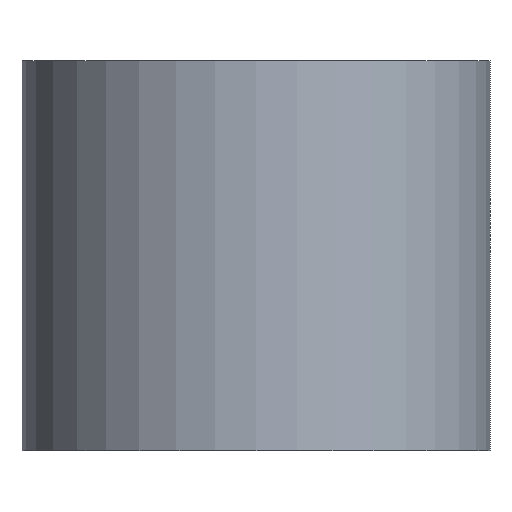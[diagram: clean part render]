
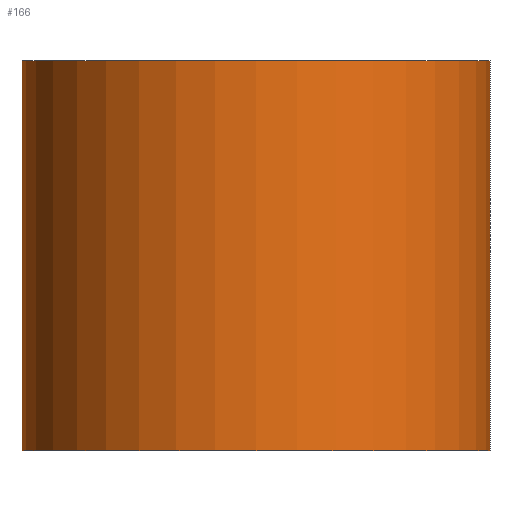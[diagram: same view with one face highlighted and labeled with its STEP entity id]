
A CAD part, front view. The second image highlights one B-rep face of the part: STEP entity #166.
In plain terms, the highlighted cylindrical face has radius 3 mm (diameter 6 mm), a partial arc.
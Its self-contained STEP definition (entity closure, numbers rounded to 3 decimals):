
#2 = DIRECTION ( 'NONE',  ( 0., 0., -1. ) ) ;
#5 = ORIENTED_EDGE ( 'NONE', *, *, #206, .T. ) ;
#13 = VERTEX_POINT ( 'NONE', #29 ) ;
#19 = LINE ( 'NONE', #67, #135 ) ;
#25 = VERTEX_POINT ( 'NONE', #240 ) ;
#29 = CARTESIAN_POINT ( 'NONE',  ( 3., 0., 0. ) ) ;
#30 = CARTESIAN_POINT ( 'NONE',  ( 3., 0., 5. ) ) ;
#47 = VERTEX_POINT ( 'NONE', #241 ) ;
#49 = EDGE_LOOP ( 'NONE', ( #113, #88, #69, #5 ) ) ;
#55 = EDGE_CURVE ( 'NONE', #25, #13, #131, .T. ) ;
#60 = EDGE_CURVE ( 'NONE', #236, #25, #230, .T. ) ;
#63 = AXIS2_PLACEMENT_3D ( 'NONE', #97, #174, #243 ) ;
#67 = CARTESIAN_POINT ( 'NONE',  ( -3., 0., 5. ) ) ;
#69 = ORIENTED_EDGE ( 'NONE', *, *, #221, .T. ) ;
#70 = AXIS2_PLACEMENT_3D ( 'NONE', #116, #239, #117 ) ;
#88 = ORIENTED_EDGE ( 'NONE', *, *, #60, .F. ) ;
#96 = FACE_OUTER_BOUND ( 'NONE', #49, .T. ) ;
#97 = CARTESIAN_POINT ( 'NONE',  ( 0., 0., 5. ) ) ;
#113 = ORIENTED_EDGE ( 'NONE', *, *, #55, .F. ) ;
#116 = CARTESIAN_POINT ( 'NONE',  ( 0., 0., 5. ) ) ;
#117 = DIRECTION ( 'NONE',  ( 1., 0., 0. ) ) ;
#118 = CARTESIAN_POINT ( 'NONE',  ( 0., 0., 0. ) ) ;
#131 = LINE ( 'NONE', #30, #179 ) ;
#135 = VECTOR ( 'NONE', #2, 1000. ) ;
#166 = ADVANCED_FACE ( 'NONE', ( #96 ), #173, .T. ) ;
#173 = CYLINDRICAL_SURFACE ( 'NONE', #63, 3. ) ;
#174 = DIRECTION ( 'NONE',  ( 0., 0., -1. ) ) ;
#175 = DIRECTION ( 'NONE',  ( 1., 0., 0. ) ) ;
#178 = CARTESIAN_POINT ( 'NONE',  ( -3., 0., 5. ) ) ;
#179 = VECTOR ( 'NONE', #201, 1000. ) ;
#185 = AXIS2_PLACEMENT_3D ( 'NONE', #118, #209, #175 ) ;
#201 = DIRECTION ( 'NONE',  ( 0., 0., -1. ) ) ;
#206 = EDGE_CURVE ( 'NONE', #47, #13, #225, .T. ) ;
#209 = DIRECTION ( 'NONE',  ( 0., 0., 1. ) ) ;
#221 = EDGE_CURVE ( 'NONE', #236, #47, #19, .T. ) ;
#225 = CIRCLE ( 'NONE', #185, 3. ) ;
#230 = CIRCLE ( 'NONE', #70, 3. ) ;
#236 = VERTEX_POINT ( 'NONE', #178 ) ;
#239 = DIRECTION ( 'NONE',  ( 0., 0., 1. ) ) ;
#240 = CARTESIAN_POINT ( 'NONE',  ( 3., 0., 5. ) ) ;
#241 = CARTESIAN_POINT ( 'NONE',  ( -3., 0., 0. ) ) ;
#243 = DIRECTION ( 'NONE',  ( -1., 0., 0. ) ) ;
